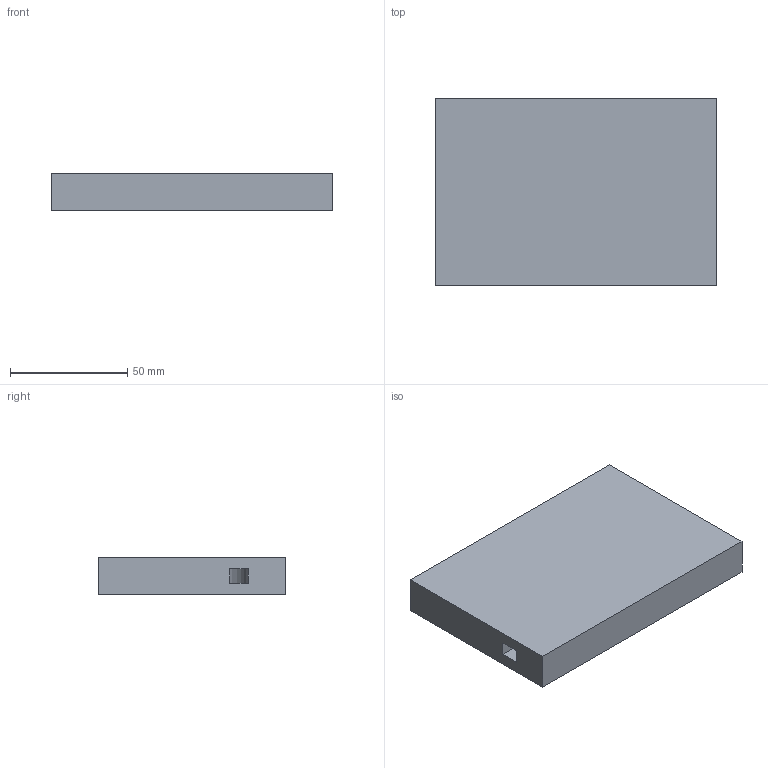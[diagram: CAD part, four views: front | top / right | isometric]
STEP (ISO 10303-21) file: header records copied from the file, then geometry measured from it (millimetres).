
FILE_DESCRIPTION(('FreeCAD Model'),'2;1');
FILE_NAME('Open CASCADE Shape Model','2026-11-03T10:07:26',('FreeCAD'),( 'FreeCAD'),'Open CASCADE STEP processor 7.8','FreeCAD','Unknown');
FILE_SCHEMA(('AUTOMOTIVE_DESIGN { 1 0 10303 214 1 1 1 1 }'));
Length unit declared in the file: millimetre
Products named in the file (1): Open CASCADE STEP translator 7.8 1
Bounding box: 120 x 80 x 16 mm (x, y, z)
Volume: 137144.1 mm3; surface area: 35103.3 mm2
Topology: 1 solids, 1 shells, 18 faces, 54 edges, 38 vertices
Faces by surface type: plane 14, cylinder 4
Entity records: 634 total; most frequent: CARTESIAN_POINT 111, ORIENTED_EDGE 108, DIRECTION 106, EDGE_CURVE 54, LINE 40, VECTOR 40, VERTEX_POINT 38, AXIS2_PLACEMENT_3D 33
